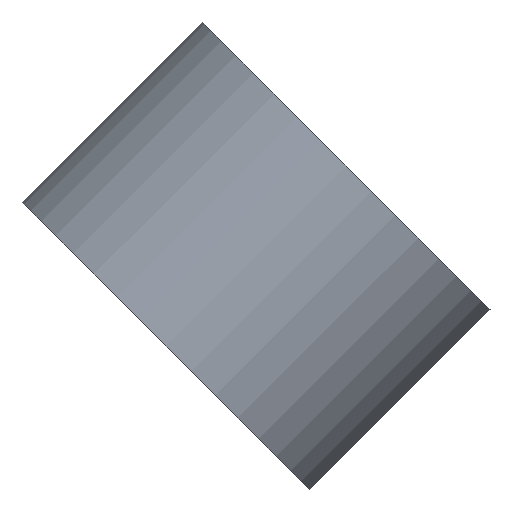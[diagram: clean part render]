
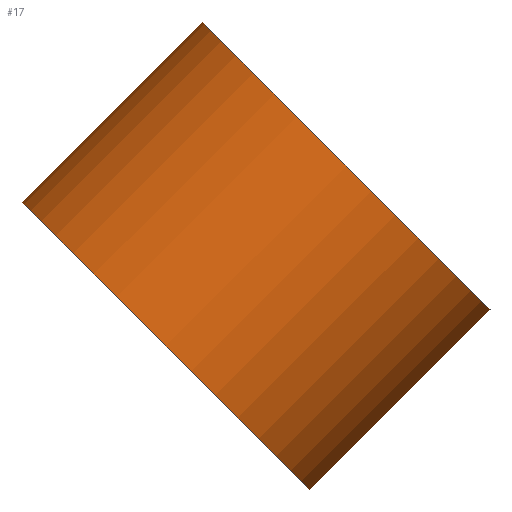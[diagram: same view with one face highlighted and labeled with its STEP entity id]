
A CAD part, front view. The second image highlights one B-rep face of the part: STEP entity #17.
In plain terms, the highlighted cylindrical face has radius 4 mm (diameter 8 mm), a full revolution.
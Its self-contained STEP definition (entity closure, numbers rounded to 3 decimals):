
#17 = ADVANCED_FACE('',(#18),#32,.T.);
#18 = FACE_BOUND('',#19,.F.);
#19 = EDGE_LOOP('',(#20,#50,#77,#78));
#20 = ORIENTED_EDGE('',*,*,#21,.T.);
#21 = EDGE_CURVE('',#22,#24,#26,.T.);
#22 = VERTEX_POINT('',#23);
#23 = CARTESIAN_POINT('',(-30.261,30.2,11.039));
#24 = VERTEX_POINT('',#25);
#25 = CARTESIAN_POINT('',(-26.725,30.2,14.575));
#26 = SEAM_CURVE('',#27,(#31,#43),.PCURVE_S1.);
#27 = LINE('',#28,#29);
#28 = CARTESIAN_POINT('',(-30.261,30.2,11.039));
#29 = VECTOR('',#30,1.);
#30 = DIRECTION('',(0.707,0.,0.707));
#31 = PCURVE('',#32,#37);
#32 = CYLINDRICAL_SURFACE('',#33,4.);
#33 = AXIS2_PLACEMENT_3D('',#34,#35,#36);
#34 = CARTESIAN_POINT('',(-30.261,34.2,11.039));
#35 = DIRECTION('',(-0.707,-0.,-0.707));
#36 = DIRECTION('',(0.,-1.,0.));
#37 = DEFINITIONAL_REPRESENTATION('',(#38),#42);
#38 = LINE('',#39,#40);
#39 = CARTESIAN_POINT('',(-0.,0.));
#40 = VECTOR('',#41,1.);
#41 = DIRECTION('',(-0.,-1.));
#42 = ( GEOMETRIC_REPRESENTATION_CONTEXT(2) 
PARAMETRIC_REPRESENTATION_CONTEXT() REPRESENTATION_CONTEXT('2D SPACE',''
  ) );
#43 = PCURVE('',#32,#44);
#44 = DEFINITIONAL_REPRESENTATION('',(#45),#49);
#45 = LINE('',#46,#47);
#46 = CARTESIAN_POINT('',(-6.283,0.));
#47 = VECTOR('',#48,1.);
#48 = DIRECTION('',(-0.,-1.));
#49 = ( GEOMETRIC_REPRESENTATION_CONTEXT(2) 
PARAMETRIC_REPRESENTATION_CONTEXT() REPRESENTATION_CONTEXT('2D SPACE',''
  ) );
#50 = ORIENTED_EDGE('',*,*,#51,.T.);
#51 = EDGE_CURVE('',#24,#24,#52,.T.);
#52 = SURFACE_CURVE('',#53,(#58,#65),.PCURVE_S1.);
#53 = CIRCLE('',#54,4.);
#54 = AXIS2_PLACEMENT_3D('',#55,#56,#57);
#55 = CARTESIAN_POINT('',(-26.725,34.2,14.575));
#56 = DIRECTION('',(0.707,0.,0.707));
#57 = DIRECTION('',(0.,-1.,0.));
#58 = PCURVE('',#32,#59);
#59 = DEFINITIONAL_REPRESENTATION('',(#60),#64);
#60 = LINE('',#61,#62);
#61 = CARTESIAN_POINT('',(-0.,-5.));
#62 = VECTOR('',#63,1.);
#63 = DIRECTION('',(-1.,0.));
#64 = ( GEOMETRIC_REPRESENTATION_CONTEXT(2) 
PARAMETRIC_REPRESENTATION_CONTEXT() REPRESENTATION_CONTEXT('2D SPACE',''
  ) );
#65 = PCURVE('',#66,#71);
#66 = PLANE('',#67);
#67 = AXIS2_PLACEMENT_3D('',#68,#69,#70);
#68 = CARTESIAN_POINT('',(-26.725,34.2,14.575));
#69 = DIRECTION('',(0.707,0.,0.707));
#70 = DIRECTION('',(-0.707,0.,0.707));
#71 = DEFINITIONAL_REPRESENTATION('',(#72),#76);
#72 = CIRCLE('',#73,4.);
#73 = AXIS2_PLACEMENT_2D('',#74,#75);
#74 = CARTESIAN_POINT('',(0.,0.));
#75 = DIRECTION('',(0.,1.));
#76 = ( GEOMETRIC_REPRESENTATION_CONTEXT(2) 
PARAMETRIC_REPRESENTATION_CONTEXT() REPRESENTATION_CONTEXT('2D SPACE',''
  ) );
#77 = ORIENTED_EDGE('',*,*,#21,.F.);
#78 = ORIENTED_EDGE('',*,*,#79,.F.);
#79 = EDGE_CURVE('',#22,#22,#80,.T.);
#80 = SURFACE_CURVE('',#81,(#86,#93),.PCURVE_S1.);
#81 = CIRCLE('',#82,4.);
#82 = AXIS2_PLACEMENT_3D('',#83,#84,#85);
#83 = CARTESIAN_POINT('',(-30.261,34.2,11.039));
#84 = DIRECTION('',(0.707,0.,0.707));
#85 = DIRECTION('',(0.,-1.,0.));
#86 = PCURVE('',#32,#87);
#87 = DEFINITIONAL_REPRESENTATION('',(#88),#92);
#88 = LINE('',#89,#90);
#89 = CARTESIAN_POINT('',(-0.,0.));
#90 = VECTOR('',#91,1.);
#91 = DIRECTION('',(-1.,0.));
#92 = ( GEOMETRIC_REPRESENTATION_CONTEXT(2) 
PARAMETRIC_REPRESENTATION_CONTEXT() REPRESENTATION_CONTEXT('2D SPACE',''
  ) );
#93 = PCURVE('',#94,#99);
#94 = PLANE('',#95);
#95 = AXIS2_PLACEMENT_3D('',#96,#97,#98);
#96 = CARTESIAN_POINT('',(-30.261,34.2,11.039));
#97 = DIRECTION('',(0.707,0.,0.707));
#98 = DIRECTION('',(-0.707,0.,0.707));
#99 = DEFINITIONAL_REPRESENTATION('',(#100),#104);
#100 = CIRCLE('',#101,4.);
#101 = AXIS2_PLACEMENT_2D('',#102,#103);
#102 = CARTESIAN_POINT('',(0.,0.));
#103 = DIRECTION('',(0.,1.));
#104 = ( GEOMETRIC_REPRESENTATION_CONTEXT(2) 
PARAMETRIC_REPRESENTATION_CONTEXT() REPRESENTATION_CONTEXT('2D SPACE',''
  ) );
